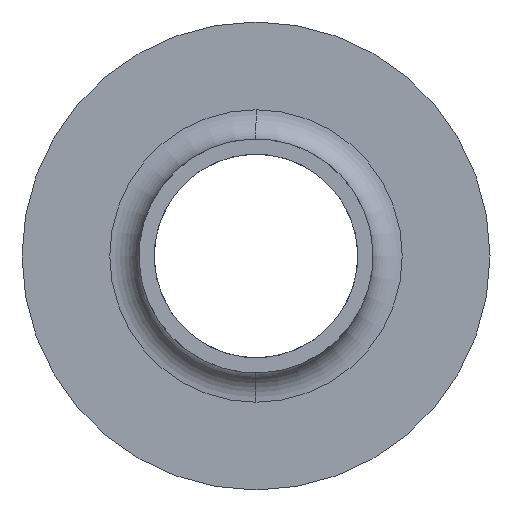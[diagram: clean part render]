
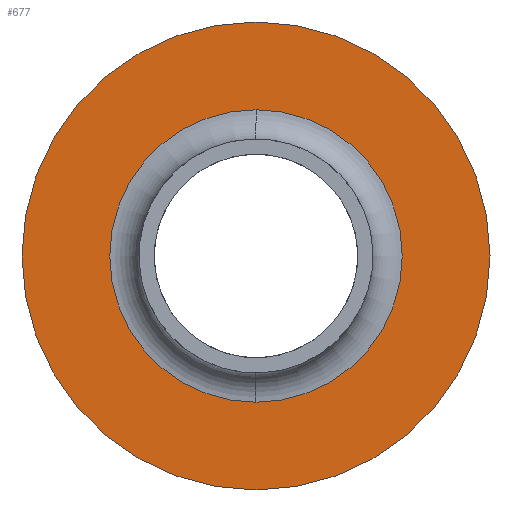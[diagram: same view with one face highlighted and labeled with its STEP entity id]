
A CAD part, front view. The second image highlights one B-rep face of the part: STEP entity #677.
In plain terms, the highlighted planar face has unit normal (0, -1, 0).
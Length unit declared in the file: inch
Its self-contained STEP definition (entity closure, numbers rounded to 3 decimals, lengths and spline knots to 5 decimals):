
#47 = DIRECTION ( 'NONE',  ( 0., 0., -1. ) ) ;
#55 = DIRECTION ( 'NONE',  ( 0., -1., 0. ) ) ;
#67 = ORIENTED_EDGE ( 'NONE', *, *, #82, .F. ) ;
#82 = EDGE_CURVE ( 'NONE', #1715, #1584, #1684, .T. ) ;
#186 = FACE_BOUND ( 'NONE', #1014, .T. ) ;
#341 = CARTESIAN_POINT ( 'NONE',  ( 0., 0.38789, 0. ) ) ;
#417 = PLANE ( 'NONE',  #712 ) ;
#451 = DIRECTION ( 'NONE',  ( 0., 1., 0. ) ) ;
#458 = ORIENTED_EDGE ( 'NONE', *, *, #989, .F. ) ;
#466 = CIRCLE ( 'NONE', #1348, 1. ) ;
#528 = DIRECTION ( 'NONE',  ( 0., 0., -1. ) ) ;
#617 = CARTESIAN_POINT ( 'NONE',  ( 0., 0.38789, 0. ) ) ;
#654 = VERTEX_POINT ( 'NONE', #2037 ) ;
#671 = ORIENTED_EDGE ( 'NONE', *, *, #1353, .T. ) ;
#677 = ADVANCED_FACE ( 'NONE', ( #186, #678 ), #417, .F. ) ;
#678 = FACE_OUTER_BOUND ( 'NONE', #2196, .T. ) ;
#712 = AXIS2_PLACEMENT_3D ( 'NONE', #785, #451, #1722 ) ;
#717 = AXIS2_PLACEMENT_3D ( 'NONE', #617, #1883, #981 ) ;
#785 = CARTESIAN_POINT ( 'NONE',  ( -1., 0.38789, 0. ) ) ;
#981 = DIRECTION ( 'NONE',  ( 0., 0., -1. ) ) ;
#989 = EDGE_CURVE ( 'NONE', #1584, #1715, #1256, .T. ) ;
#1014 = EDGE_LOOP ( 'NONE', ( #67, #458 ) ) ;
#1145 = DIRECTION ( 'NONE',  ( 0., -1., 0. ) ) ;
#1152 = CARTESIAN_POINT ( 'NONE',  ( 0., 0.38789, 0. ) ) ;
#1209 = CARTESIAN_POINT ( 'NONE',  ( 0., 0.38789, -0.625 ) ) ;
#1256 = CIRCLE ( 'NONE', #2124, 0.625 ) ;
#1332 = DIRECTION ( 'NONE',  ( 0., 0., -1. ) ) ;
#1348 = AXIS2_PLACEMENT_3D ( 'NONE', #341, #1626, #528 ) ;
#1353 = EDGE_CURVE ( 'NONE', #654, #1426, #466, .T. ) ;
#1426 = VERTEX_POINT ( 'NONE', #1986 ) ;
#1502 = CARTESIAN_POINT ( 'NONE',  ( 0., 0.38789, 0.625 ) ) ;
#1584 = VERTEX_POINT ( 'NONE', #1502 ) ;
#1626 = DIRECTION ( 'NONE',  ( 0., -1., 0. ) ) ;
#1684 = CIRCLE ( 'NONE', #717, 0.625 ) ;
#1715 = VERTEX_POINT ( 'NONE', #1209 ) ;
#1722 = DIRECTION ( 'NONE',  ( 0., 0., 1. ) ) ;
#1883 = DIRECTION ( 'NONE',  ( 0., -1., 0. ) ) ;
#1907 = ORIENTED_EDGE ( 'NONE', *, *, #1976, .T. ) ;
#1976 = EDGE_CURVE ( 'NONE', #1426, #654, #2002, .T. ) ;
#1986 = CARTESIAN_POINT ( 'NONE',  ( 0., 0.38789, -1. ) ) ;
#2002 = CIRCLE ( 'NONE', #2094, 1. ) ;
#2037 = CARTESIAN_POINT ( 'NONE',  ( 0., 0.38789, 1. ) ) ;
#2094 = AXIS2_PLACEMENT_3D ( 'NONE', #1152, #55, #1332 ) ;
#2124 = AXIS2_PLACEMENT_3D ( 'NONE', #2211, #1145, #47 ) ;
#2196 = EDGE_LOOP ( 'NONE', ( #1907, #671 ) ) ;
#2211 = CARTESIAN_POINT ( 'NONE',  ( 0., 0.38789, 0. ) ) ;
